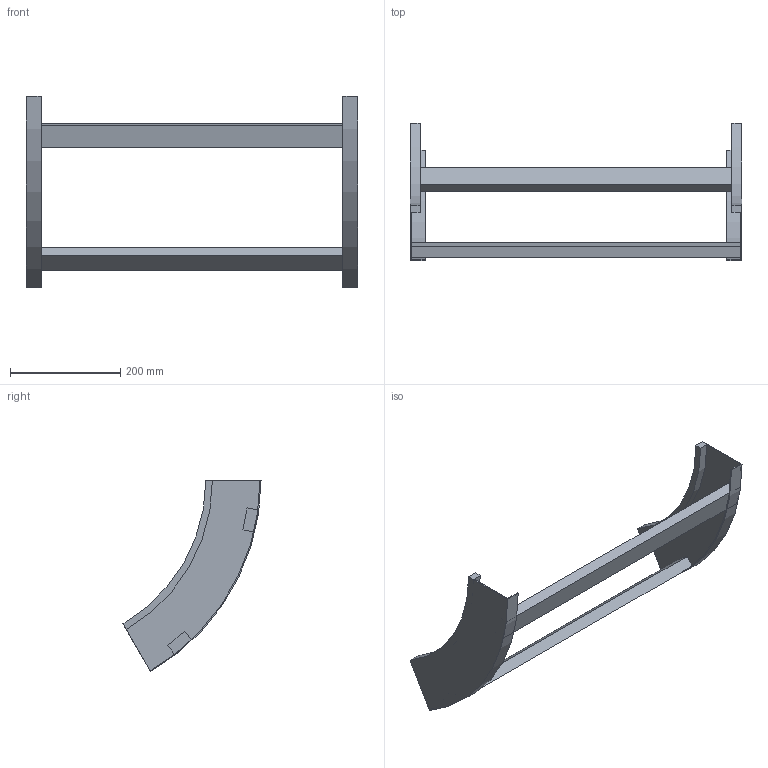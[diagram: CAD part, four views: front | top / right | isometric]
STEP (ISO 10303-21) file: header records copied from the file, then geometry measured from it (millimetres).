
FILE_DESCRIPTION (( 'STEP AP214' ), '1' );
FILE_NAME ('B2X40B3J600XX.step', '2025-03-20T10:15:40', ( '' ), ( '' ), 'SwSTEP 2.0', 'SolidWorks 2023', '' );
FILE_SCHEMA (( 'AUTOMOTIVE_DESIGN' ));
Length unit declared in the file: millimetre
Products named in the file (3): B2_LONGH.SALITA_60°_H112.5_R300; TRAVERSINO_600; B2X40B3J600XX
Assembly tree (4 placements, depth 2):
  B2X40B3J600XX
    B2_LONGH.SALITA_60°_H112.5_R300  x2
    TRAVERSINO_600  x2
Bounding box: 600 x 250 x 346.41 mm (x, y, z)
Volume: 1276960.7 mm3; surface area: 361071.3 mm2
Topology: 4 solids, 4 shells, 32 faces, 72 edges, 48 vertices
Faces by surface type: plane 24, cylinder 8
Entity records: 552 total; most frequent: DIRECTION 90, CARTESIAN_POINT 83, ORIENTED_EDGE 72, EDGE_CURVE 36, AXIS2_PLACEMENT_3D 31, LINE 28, VECTOR 28, VERTEX_POINT 24
